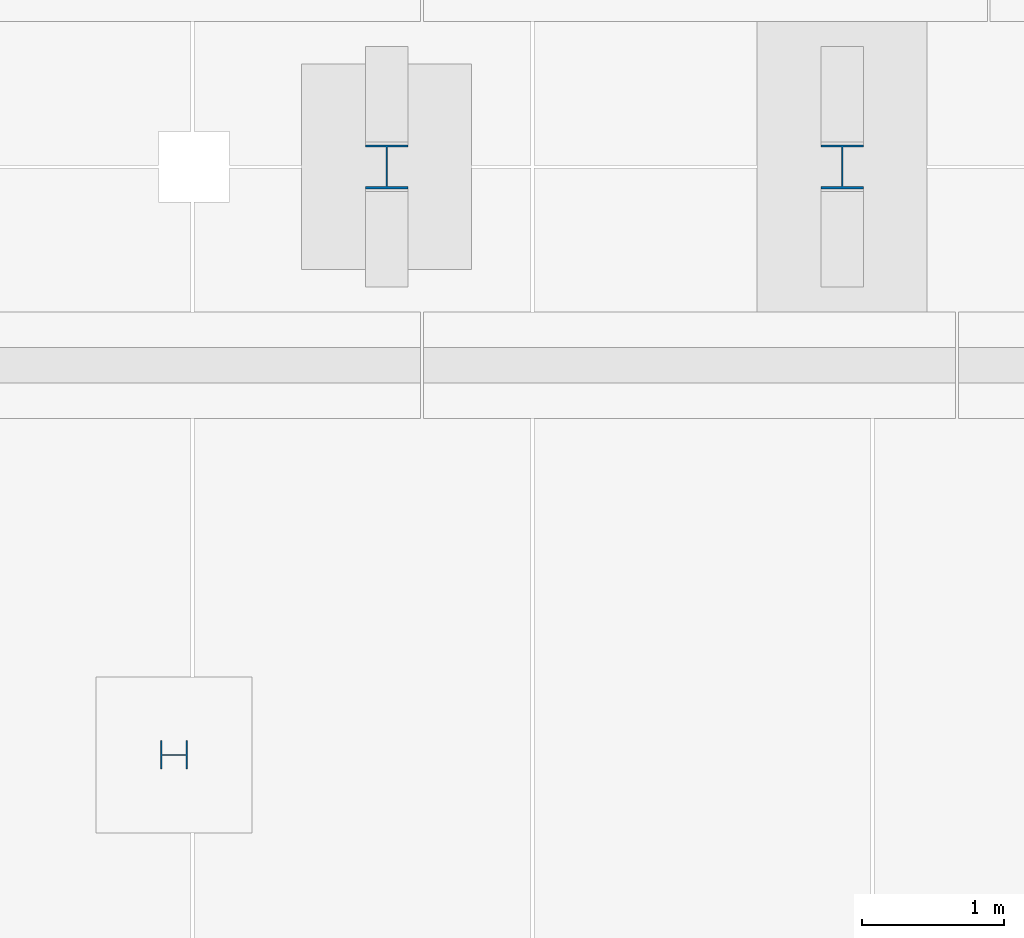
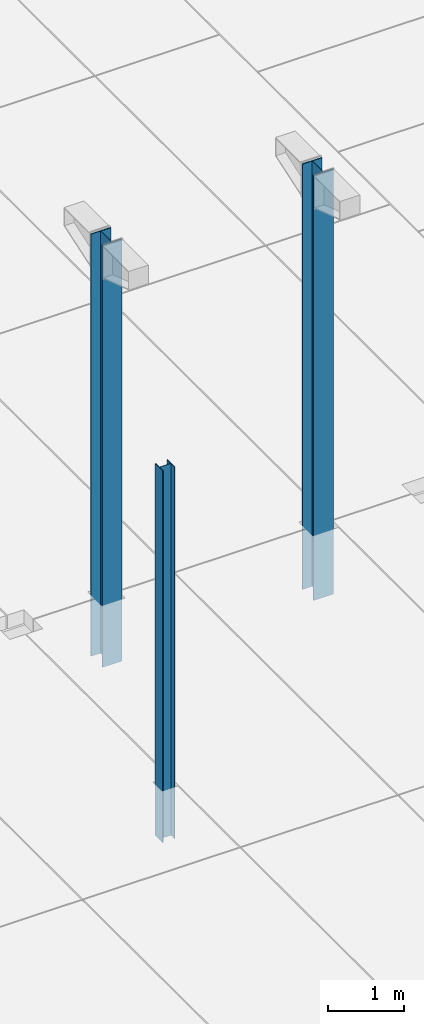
# One storey, part 24 of 59: 3 columns.
"""IFC2X3 building model written with IfcOpenShell, lengths in metres."""

from ifc_helpers import new_model, entity, si_unit, converted_unit, derived_unit, frame, origin, origin_with_axes, place, context, subcontext, project, spatial, polyline, outline, extrude, material, element, save


model = new_model("IFC2X3")

# Units and contexts
model_context = context("Model", 3, precision=1e-05, world=origin())
body_context = subcontext(model_context, "Body", "Model", "MODEL_VIEW")
ifc_project = project(units=[si_unit("LENGTHUNIT", "METRE"), si_unit("AREAUNIT", "SQUARE_METRE"), si_unit("VOLUMEUNIT", "CUBIC_METRE"), si_unit("MASSUNIT", "GRAM", prefix="KILO"), converted_unit("PLANEANGLEUNIT", "DEGREE", entity("IfcPlaneAngleMeasure", 0.0174532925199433), si_unit("PLANEANGLEUNIT", "RADIAN"), dimensions=[0, 0, 0, 0, 0, 0, 0]), derived_unit("THERMALTRANSMITTANCEUNIT", [(si_unit("POWERUNIT", "WATT"), 1), (si_unit("THERMODYNAMICTEMPERATUREUNIT", "KELVIN"), -1), (si_unit("LENGTHUNIT", "METRE"), -2)]), derived_unit("VOLUMETRICFLOWRATEUNIT", [(si_unit("LENGTHUNIT", "METRE"), 3), (converted_unit("TIMEUNIT", "hour", entity("IfcTimeMeasure", 3600.0), si_unit("TIMEUNIT", "SECOND"), dimensions=[0, 0, 1, 0, 0, 0, 0]), -1), (si_unit("LENGTHUNIT", "METRE"), -1)])], contexts=[model_context])

# Site, building, storey
site_placement = place(None, origin())
site = spatial("IfcSite", under=ifc_project, at=site_placement, Name="TWP_Speiseverteilzentrum SBW VZ II", CompositionType="ELEMENT")
building_placement = place(site_placement, origin())
building = spatial("IfcBuilding", under=site, at=building_placement, Name="Speiseverteilzentrum SBW VZ II", CompositionType="ELEMENT")
storey_placement = place(building_placement, frame((0.0, 0.0, 1.7307)))
storey = spatial("IfcBuildingStorey", under=building, at=storey_placement, Name="EG_Produktion_FFB", CompositionType="ELEMENT", Elevation=1.7307)

# Columns
ifc_material_1 = material(Name="S235")
column_1_placement = place(storey_placement, frame((59.7645236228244, 26.549939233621, -1.1)))
element("IfcColumn", 1, at=column_1_placement, inside=storey, material=ifc_material_1, Name="Stahlstütze", context=body_context, shape_type="SweptSolid", body=[
    extrude(outline(polyline([(0.19, 0.0), (0.19, 0.2), (0.18, 0.2), (0.18, 0.10325), (0.01, 0.10325), (0.01, 0.2), (0.0, 0.2), (0.0, 0.0), (0.01, 0.0), (0.01, 0.09675), (0.18, 0.09675), (0.18, 0.0), (0.19, 0.0)])), origin_with_axes(), (0.0, 0.0, 1.0), 5.98),
])
ifc_material_2 = material(Name="S235")
column_2_placement = place(storey_placement, frame((64.4250000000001, 30.6451031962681, -1.32)))
element("IfcColumn", 2, at=column_2_placement, inside=storey, material=ifc_material_2, Name="Stahlstütze", context=body_context, shape_type="SweptSolid", body=[
    extrude(outline(polyline([(0.0, 0.0), (0.3, 0.0), (0.3, 0.0155), (0.1545, 0.0155), (0.1545, 0.2945), (0.3, 0.2945), (0.3, 0.31), (0.0, 0.31), (0.0, 0.2945), (0.1455, 0.2945), (0.1455, 0.0155), (0.0, 0.0155), (0.0, 0.0)])), origin_with_axes(), (0.0, 0.0, 1.0), 6.8393),
])
ifc_material_3 = material(Name="S235")
column_3_placement = place(storey_placement, frame((61.2100000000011, 30.6451031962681, -1.27)))
element("IfcColumn", 3, at=column_3_placement, inside=storey, material=ifc_material_3, Name="Stahlstütze", context=body_context, shape_type="SweptSolid", body=[
    extrude(outline(polyline([(0.0, 0.0), (0.3, 0.0), (0.3, 0.0155), (0.1545, 0.0155), (0.1545, 0.2945), (0.3, 0.2945), (0.3, 0.31), (0.0, 0.31), (0.0, 0.2945), (0.1455, 0.2945), (0.1455, 0.0155), (0.0, 0.0155), (0.0, 0.0)])), origin_with_axes(), (0.0, 0.0, 1.0), 6.7893),
])

save(model, "model.ifc")
